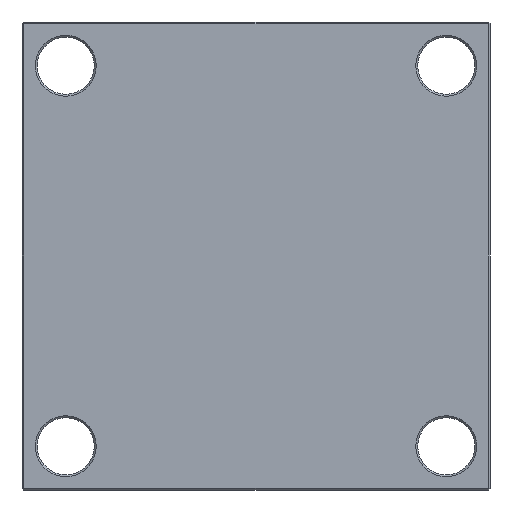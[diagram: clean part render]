
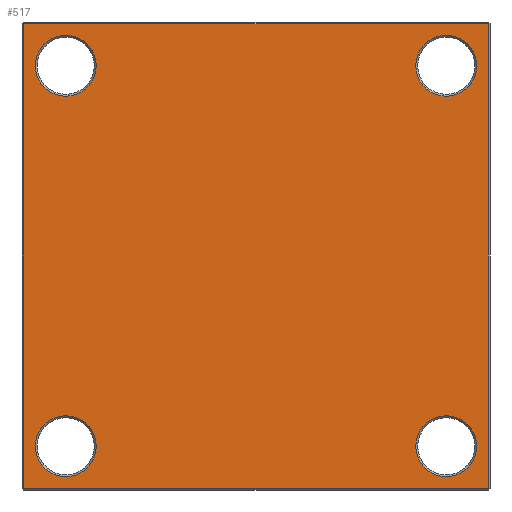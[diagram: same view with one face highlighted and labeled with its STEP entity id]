
A CAD part, front view. The second image highlights one B-rep face of the part: STEP entity #517.
In plain terms, the highlighted planar face has unit normal (0, -1, 0).
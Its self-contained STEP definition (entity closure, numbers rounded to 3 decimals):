
#6 = AXIS2_PLACEMENT_3D ( 'NONE', #311, #255, #1214 ) ;
#7 = DIRECTION ( 'NONE',  ( 0., 0., 1. ) ) ;
#11 = DIRECTION ( 'NONE',  ( 0., 1., 0. ) ) ;
#21 = CARTESIAN_POINT ( 'NONE',  ( 100., 0., -116. ) ) ;
#29 = DIRECTION ( 'NONE',  ( 0., 1., 0. ) ) ;
#105 = LINE ( 'NONE', #1286, #1034 ) ;
#119 = CARTESIAN_POINT ( 'NONE',  ( -100., 0., 116. ) ) ;
#124 = EDGE_LOOP ( 'NONE', ( #1822, #973 ) ) ;
#154 = VERTEX_POINT ( 'NONE', #1436 ) ;
#165 = CARTESIAN_POINT ( 'NONE',  ( -122., 0., 122. ) ) ;
#187 = VERTEX_POINT ( 'NONE', #21 ) ;
#227 = CARTESIAN_POINT ( 'NONE',  ( -100., 0., 84. ) ) ;
#252 = EDGE_LOOP ( 'NONE', ( #1602, #1637 ) ) ;
#255 = DIRECTION ( 'NONE',  ( 0., 1., 0. ) ) ;
#257 = DIRECTION ( 'NONE',  ( 0., 0., 1. ) ) ;
#276 = EDGE_CURVE ( 'NONE', #1406, #1841, #1171, .T. ) ;
#286 = CARTESIAN_POINT ( 'NONE',  ( -100., 0., -100. ) ) ;
#299 = FACE_BOUND ( 'NONE', #124, .T. ) ;
#311 = CARTESIAN_POINT ( 'NONE',  ( -100., 0., -100. ) ) ;
#324 = EDGE_CURVE ( 'NONE', #2013, #187, #567, .T. ) ;
#327 = VECTOR ( 'NONE', #900, 1000. ) ;
#357 = LINE ( 'NONE', #687, #1342 ) ;
#394 = CARTESIAN_POINT ( 'NONE',  ( -100., 0., 100. ) ) ;
#417 = CARTESIAN_POINT ( 'NONE',  ( -100., 0., -116. ) ) ;
#418 = DIRECTION ( 'NONE',  ( 0., 1., 0. ) ) ;
#441 = DIRECTION ( 'NONE',  ( 0., 0., -1. ) ) ;
#457 = DIRECTION ( 'NONE',  ( 0., 0., 1. ) ) ;
#486 = AXIS2_PLACEMENT_3D ( 'NONE', #1031, #1355, #1348 ) ;
#492 = CARTESIAN_POINT ( 'NONE',  ( 122., 0., 122. ) ) ;
#513 = VECTOR ( 'NONE', #762, 1000. ) ;
#517 = ADVANCED_FACE ( 'NONE', ( #2067, #2021, #1647, #299, #806 ), #1398, .F. ) ;
#567 = CIRCLE ( 'NONE', #486, 16. ) ;
#577 = EDGE_LOOP ( 'NONE', ( #1093, #632 ) ) ;
#582 = AXIS2_PLACEMENT_3D ( 'NONE', #286, #29, #257 ) ;
#594 = VERTEX_POINT ( 'NONE', #602 ) ;
#602 = CARTESIAN_POINT ( 'NONE',  ( -122., 0., -122. ) ) ;
#632 = ORIENTED_EDGE ( 'NONE', *, *, #324, .T. ) ;
#687 = CARTESIAN_POINT ( 'NONE',  ( -122., 0., 0. ) ) ;
#703 = VERTEX_POINT ( 'NONE', #165 ) ;
#729 = VERTEX_POINT ( 'NONE', #1612 ) ;
#755 = CARTESIAN_POINT ( 'NONE',  ( 0., 0., -122. ) ) ;
#761 = ORIENTED_EDGE ( 'NONE', *, *, #1997, .T. ) ;
#762 = DIRECTION ( 'NONE',  ( -1., 0., 0. ) ) ;
#780 = EDGE_CURVE ( 'NONE', #1841, #1406, #1252, .T. ) ;
#804 = DIRECTION ( 'NONE',  ( 0., 1., 0. ) ) ;
#806 = FACE_OUTER_BOUND ( 'NONE', #2062, .T. ) ;
#843 = ORIENTED_EDGE ( 'NONE', *, *, #1577, .T. ) ;
#886 = DIRECTION ( 'NONE',  ( 0., 0., 1. ) ) ;
#887 = AXIS2_PLACEMENT_3D ( 'NONE', #394, #418, #457 ) ;
#899 = CARTESIAN_POINT ( 'NONE',  ( 100., 0., 100. ) ) ;
#900 = DIRECTION ( 'NONE',  ( 1., 0., 0. ) ) ;
#937 = CARTESIAN_POINT ( 'NONE',  ( 100., 0., -84. ) ) ;
#943 = CARTESIAN_POINT ( 'NONE',  ( 0., 0., 122. ) ) ;
#970 = CARTESIAN_POINT ( 'NONE',  ( 100., 0., -100. ) ) ;
#973 = ORIENTED_EDGE ( 'NONE', *, *, #1624, .T. ) ;
#985 = CARTESIAN_POINT ( 'NONE',  ( 100., 0., 100. ) ) ;
#992 = DIRECTION ( 'NONE',  ( 0., 1., 0. ) ) ;
#1010 = DIRECTION ( 'NONE',  ( 0., 0., 1. ) ) ;
#1016 = EDGE_CURVE ( 'NONE', #1380, #1304, #1370, .T. ) ;
#1031 = CARTESIAN_POINT ( 'NONE',  ( 100., 0., -100. ) ) ;
#1034 = VECTOR ( 'NONE', #1422, 1000. ) ;
#1061 = EDGE_CURVE ( 'NONE', #594, #154, #1318, .T. ) ;
#1093 = ORIENTED_EDGE ( 'NONE', *, *, #1301, .T. ) ;
#1111 = ORIENTED_EDGE ( 'NONE', *, *, #1973, .T. ) ;
#1142 = AXIS2_PLACEMENT_3D ( 'NONE', #985, #992, #1010 ) ;
#1171 = CIRCLE ( 'NONE', #582, 16. ) ;
#1203 = ORIENTED_EDGE ( 'NONE', *, *, #1494, .T. ) ;
#1214 = DIRECTION ( 'NONE',  ( 0., 0., 1. ) ) ;
#1246 = VERTEX_POINT ( 'NONE', #1796 ) ;
#1252 = CIRCLE ( 'NONE', #6, 16. ) ;
#1271 = EDGE_LOOP ( 'NONE', ( #1203, #1111 ) ) ;
#1286 = CARTESIAN_POINT ( 'NONE',  ( 122., 0., 0. ) ) ;
#1291 = AXIS2_PLACEMENT_3D ( 'NONE', #1371, #1364, #1510 ) ;
#1301 = EDGE_CURVE ( 'NONE', #187, #2013, #1439, .T. ) ;
#1304 = VERTEX_POINT ( 'NONE', #119 ) ;
#1318 = LINE ( 'NONE', #755, #327 ) ;
#1337 = AXIS2_PLACEMENT_3D ( 'NONE', #970, #11, #7 ) ;
#1342 = VECTOR ( 'NONE', #441, 1000. ) ;
#1348 = DIRECTION ( 'NONE',  ( 0., 0., 1. ) ) ;
#1355 = DIRECTION ( 'NONE',  ( 0., 1., 0. ) ) ;
#1364 = DIRECTION ( 'NONE',  ( 0., 1., 0. ) ) ;
#1370 = CIRCLE ( 'NONE', #887, 16. ) ;
#1371 = CARTESIAN_POINT ( 'NONE',  ( 0., 0., 0. ) ) ;
#1380 = VERTEX_POINT ( 'NONE', #227 ) ;
#1398 = PLANE ( 'NONE',  #1291 ) ;
#1406 = VERTEX_POINT ( 'NONE', #417 ) ;
#1411 = CIRCLE ( 'NONE', #1675, 16. ) ;
#1420 = EDGE_CURVE ( 'NONE', #703, #594, #357, .T. ) ;
#1422 = DIRECTION ( 'NONE',  ( 0., 0., 1. ) ) ;
#1431 = VERTEX_POINT ( 'NONE', #492 ) ;
#1436 = CARTESIAN_POINT ( 'NONE',  ( 122., 0., -122. ) ) ;
#1439 = CIRCLE ( 'NONE', #1337, 16. ) ;
#1494 = EDGE_CURVE ( 'NONE', #1246, #729, #1641, .T. ) ;
#1510 = DIRECTION ( 'NONE',  ( 0., 0., 1. ) ) ;
#1577 = EDGE_CURVE ( 'NONE', #154, #1431, #105, .T. ) ;
#1583 = CARTESIAN_POINT ( 'NONE',  ( -100., 0., 100. ) ) ;
#1590 = DIRECTION ( 'NONE',  ( 0., 1., 0. ) ) ;
#1596 = DIRECTION ( 'NONE',  ( 0., 0., 1. ) ) ;
#1602 = ORIENTED_EDGE ( 'NONE', *, *, #276, .T. ) ;
#1612 = CARTESIAN_POINT ( 'NONE',  ( 100., 0., 116. ) ) ;
#1624 = EDGE_CURVE ( 'NONE', #1304, #1380, #1411, .T. ) ;
#1627 = CIRCLE ( 'NONE', #1990, 16. ) ;
#1637 = ORIENTED_EDGE ( 'NONE', *, *, #780, .T. ) ;
#1641 = CIRCLE ( 'NONE', #1142, 16. ) ;
#1647 = FACE_BOUND ( 'NONE', #1271, .T. ) ;
#1675 = AXIS2_PLACEMENT_3D ( 'NONE', #1583, #1590, #1596 ) ;
#1786 = LINE ( 'NONE', #943, #513 ) ;
#1796 = CARTESIAN_POINT ( 'NONE',  ( 100., 0., 84. ) ) ;
#1822 = ORIENTED_EDGE ( 'NONE', *, *, #1016, .T. ) ;
#1841 = VERTEX_POINT ( 'NONE', #1870 ) ;
#1870 = CARTESIAN_POINT ( 'NONE',  ( -100., 0., -84. ) ) ;
#1927 = ORIENTED_EDGE ( 'NONE', *, *, #1420, .T. ) ;
#1973 = EDGE_CURVE ( 'NONE', #729, #1246, #1627, .T. ) ;
#1990 = AXIS2_PLACEMENT_3D ( 'NONE', #899, #804, #886 ) ;
#1997 = EDGE_CURVE ( 'NONE', #1431, #703, #1786, .T. ) ;
#2010 = ORIENTED_EDGE ( 'NONE', *, *, #1061, .T. ) ;
#2013 = VERTEX_POINT ( 'NONE', #937 ) ;
#2021 = FACE_BOUND ( 'NONE', #577, .T. ) ;
#2062 = EDGE_LOOP ( 'NONE', ( #843, #761, #1927, #2010 ) ) ;
#2067 = FACE_BOUND ( 'NONE', #252, .T. ) ;
